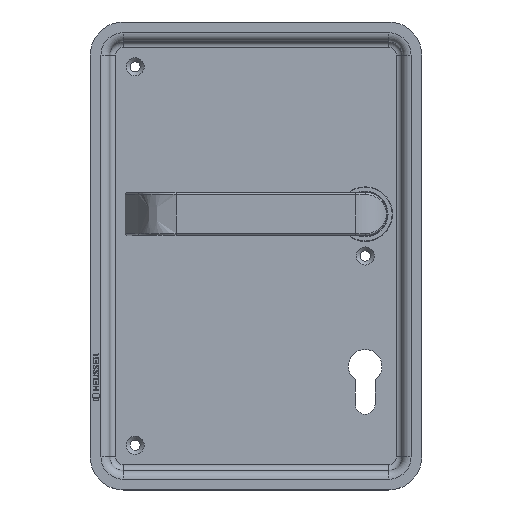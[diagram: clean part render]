
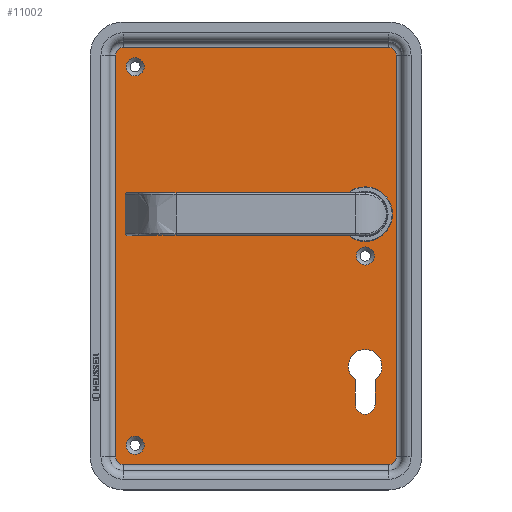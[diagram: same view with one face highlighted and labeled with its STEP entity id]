
A CAD part, top view. The second image highlights one B-rep face of the part: STEP entity #11002.
In plain terms, the highlighted planar face has unit normal (0, 0, 1).
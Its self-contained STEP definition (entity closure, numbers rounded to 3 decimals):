
#681=LINE('',#14782,#1644);
#683=LINE('',#14800,#1646);
#684=LINE('',#14803,#1647);
#686=LINE('',#14820,#1649);
#739=LINE('',#15044,#1702);
#740=LINE('',#15047,#1703);
#1644=VECTOR('',#12429,10.);
#1646=VECTOR('',#12451,10.);
#1647=VECTOR('',#12454,10.);
#1649=VECTOR('',#12476,10.);
#1702=VECTOR('',#12733,10.);
#1703=VECTOR('',#12736,10.);
#2690=FACE_BOUND('',#3488,.T.);
#2691=FACE_BOUND('',#3489,.T.);
#2692=FACE_BOUND('',#3490,.T.);
#2693=FACE_BOUND('',#3491,.T.);
#2694=FACE_BOUND('',#3492,.T.);
#2847=FACE_OUTER_BOUND('',#3487,.T.);
#3487=EDGE_LOOP('',(#7249,#7250,#7251,#7252,#7253,#7254,#7255,#7256));
#3488=EDGE_LOOP('',(#7257));
#3489=EDGE_LOOP('',(#7258,#7259,#7260,#7261));
#3490=EDGE_LOOP('',(#7262));
#3491=EDGE_LOOP('',(#7263));
#3492=EDGE_LOOP('',(#7264));
#4137=CIRCLE('',#11625,4.);
#4138=CIRCLE('',#11627,4.);
#4145=CIRCLE('',#11637,4.);
#4146=CIRCLE('',#11639,4.);
#4195=CIRCLE('',#11739,4.65);
#4196=CIRCLE('',#11741,4.65);
#4197=CIRCLE('',#11743,14.);
#4198=CIRCLE('',#11744,8.6);
#4199=CIRCLE('',#11745,5.1);
#4200=CIRCLE('',#11746,4.65);
#4340=VERTEX_POINT('',#14776);
#4342=VERTEX_POINT('',#14780);
#4344=VERTEX_POINT('',#14786);
#4345=VERTEX_POINT('',#14790);
#4348=VERTEX_POINT('',#14798);
#4349=VERTEX_POINT('',#14802);
#4352=VERTEX_POINT('',#14810);
#4353=VERTEX_POINT('',#14814);
#4414=VERTEX_POINT('',#15032);
#4415=VERTEX_POINT('',#15035);
#4416=VERTEX_POINT('',#15038);
#4417=VERTEX_POINT('',#15040);
#4418=VERTEX_POINT('',#15041);
#4419=VERTEX_POINT('',#15043);
#4420=VERTEX_POINT('',#15045);
#4421=VERTEX_POINT('',#15048);
#5398=EDGE_CURVE('',#4342,#4340,#681,.T.);
#5401=EDGE_CURVE('',#4344,#4342,#4137,.T.);
#5402=EDGE_CURVE('',#4340,#4345,#4138,.T.);
#5407=EDGE_CURVE('',#4348,#4344,#683,.T.);
#5408=EDGE_CURVE('',#4345,#4349,#684,.T.);
#5413=EDGE_CURVE('',#4352,#4348,#4145,.T.);
#5414=EDGE_CURVE('',#4349,#4353,#4146,.T.);
#5417=EDGE_CURVE('',#4353,#4352,#686,.T.);
#5518=EDGE_CURVE('',#4414,#4414,#4195,.T.);
#5519=EDGE_CURVE('',#4415,#4415,#4196,.T.);
#5520=EDGE_CURVE('',#4416,#4416,#4197,.T.);
#5521=EDGE_CURVE('',#4417,#4418,#4198,.T.);
#5522=EDGE_CURVE('',#4418,#4419,#739,.T.);
#5523=EDGE_CURVE('',#4419,#4420,#4199,.T.);
#5524=EDGE_CURVE('',#4420,#4417,#740,.T.);
#5525=EDGE_CURVE('',#4421,#4421,#4200,.T.);
#7249=ORIENTED_EDGE('',*,*,#5417,.F.);
#7250=ORIENTED_EDGE('',*,*,#5414,.F.);
#7251=ORIENTED_EDGE('',*,*,#5408,.F.);
#7252=ORIENTED_EDGE('',*,*,#5402,.F.);
#7253=ORIENTED_EDGE('',*,*,#5398,.F.);
#7254=ORIENTED_EDGE('',*,*,#5401,.F.);
#7255=ORIENTED_EDGE('',*,*,#5407,.F.);
#7256=ORIENTED_EDGE('',*,*,#5413,.F.);
#7257=ORIENTED_EDGE('',*,*,#5520,.T.);
#7258=ORIENTED_EDGE('',*,*,#5521,.T.);
#7259=ORIENTED_EDGE('',*,*,#5522,.T.);
#7260=ORIENTED_EDGE('',*,*,#5523,.T.);
#7261=ORIENTED_EDGE('',*,*,#5524,.T.);
#7262=ORIENTED_EDGE('',*,*,#5519,.F.);
#7263=ORIENTED_EDGE('',*,*,#5518,.F.);
#7264=ORIENTED_EDGE('',*,*,#5525,.F.);
#10029=PLANE('',#11742);
#11002=ADVANCED_FACE('',(#2847,#2690,#2691,#2692,#2693,#2694),#10029,.T.);
#11625=AXIS2_PLACEMENT_3D('',#14788,#12436,#12437);
#11627=AXIS2_PLACEMENT_3D('',#14791,#12440,#12441);
#11637=AXIS2_PLACEMENT_3D('',#14812,#12464,#12465);
#11639=AXIS2_PLACEMENT_3D('',#14815,#12468,#12469);
#11739=AXIS2_PLACEMENT_3D('',#15033,#12721,#12722);
#11741=AXIS2_PLACEMENT_3D('',#15036,#12725,#12726);
#11742=AXIS2_PLACEMENT_3D('',#15037,#12727,#12728);
#11743=AXIS2_PLACEMENT_3D('',#15039,#12729,#12730);
#11744=AXIS2_PLACEMENT_3D('',#15042,#12731,#12732);
#11745=AXIS2_PLACEMENT_3D('',#15046,#12734,#12735);
#11746=AXIS2_PLACEMENT_3D('',#15049,#12737,#12738);
#12429=DIRECTION('',(0.,-1.,0.));
#12436=DIRECTION('center_axis',(0.,0.,-1.));
#12437=DIRECTION('ref_axis',(0.707,0.707,0.));
#12440=DIRECTION('center_axis',(0.,0.,-1.));
#12441=DIRECTION('ref_axis',(0.707,-0.707,0.));
#12451=DIRECTION('',(1.,0.,0.));
#12454=DIRECTION('',(-1.,0.,0.));
#12464=DIRECTION('center_axis',(0.,0.,-1.));
#12465=DIRECTION('ref_axis',(-0.707,0.707,0.));
#12468=DIRECTION('center_axis',(0.,0.,-1.));
#12469=DIRECTION('ref_axis',(-0.707,-0.707,0.));
#12476=DIRECTION('',(0.,1.,0.));
#12721=DIRECTION('center_axis',(0.,0.,1.));
#12722=DIRECTION('ref_axis',(-1.,0.,0.));
#12725=DIRECTION('center_axis',(0.,0.,1.));
#12726=DIRECTION('ref_axis',(-1.,0.,0.));
#12727=DIRECTION('center_axis',(0.,0.,1.));
#12728=DIRECTION('ref_axis',(1.,0.,0.));
#12729=DIRECTION('center_axis',(0.,0.,-1.));
#12730=DIRECTION('ref_axis',(1.,0.,0.));
#12731=DIRECTION('center_axis',(0.,0.,-1.));
#12732=DIRECTION('ref_axis',(-0.593,0.805,0.));
#12733=DIRECTION('',(0.,-1.,0.));
#12734=DIRECTION('center_axis',(0.,0.,-1.));
#12735=DIRECTION('ref_axis',(1.,0.,0.));
#12736=DIRECTION('',(0.,1.,0.));
#12737=DIRECTION('center_axis',(0.,0.,1.));
#12738=DIRECTION('ref_axis',(-1.,0.,0.));
#14776=CARTESIAN_POINT('',(70.865,-93.546,-5.5));
#14780=CARTESIAN_POINT('',(70.865,112.454,-5.5));
#14782=CARTESIAN_POINT('',(70.865,60.954,-5.5));
#14786=CARTESIAN_POINT('',(66.865,116.454,-5.5));
#14788=CARTESIAN_POINT('Origin',(66.865,112.454,-5.5));
#14790=CARTESIAN_POINT('',(66.865,-97.546,-5.5));
#14791=CARTESIAN_POINT('Origin',(66.865,-93.546,-5.5));
#14798=CARTESIAN_POINT('',(-69.135,116.454,-5.5));
#14800=CARTESIAN_POINT('',(-35.135,116.454,-5.5));
#14802=CARTESIAN_POINT('',(-69.135,-97.546,-5.5));
#14803=CARTESIAN_POINT('',(32.865,-97.546,-5.5));
#14810=CARTESIAN_POINT('',(-73.135,112.454,-5.5));
#14812=CARTESIAN_POINT('Origin',(-69.135,112.454,-5.5));
#14814=CARTESIAN_POINT('',(-73.135,-93.546,-5.5));
#14815=CARTESIAN_POINT('Origin',(-69.135,-93.546,-5.5));
#14820=CARTESIAN_POINT('',(-73.135,-42.046,-5.5));
#15032=CARTESIAN_POINT('',(-58.485,106.454,-5.5));
#15033=CARTESIAN_POINT('Origin',(-63.135,106.454,-5.5));
#15035=CARTESIAN_POINT('',(59.515,9.454,-5.5));
#15036=CARTESIAN_POINT('Origin',(54.865,9.454,-5.5));
#15037=CARTESIAN_POINT('Origin',(-1.135,9.454,-5.5));
#15038=CARTESIAN_POINT('',(40.865,30.954,-5.5));
#15039=CARTESIAN_POINT('Origin',(54.865,30.954,-5.5));
#15040=CARTESIAN_POINT('',(49.765,-53.97,-5.5));
#15041=CARTESIAN_POINT('',(59.965,-53.97,-5.5));
#15042=CARTESIAN_POINT('Origin',(54.865,-47.046,-5.5));
#15043=CARTESIAN_POINT('',(59.965,-66.546,-5.5));
#15044=CARTESIAN_POINT('',(59.965,-22.258,-5.5));
#15045=CARTESIAN_POINT('',(49.765,-66.546,-5.5));
#15046=CARTESIAN_POINT('Origin',(54.865,-66.546,-5.5));
#15047=CARTESIAN_POINT('',(49.765,-28.546,-5.5));
#15048=CARTESIAN_POINT('',(-58.485,-87.546,-5.5));
#15049=CARTESIAN_POINT('Origin',(-63.135,-87.546,-5.5));
